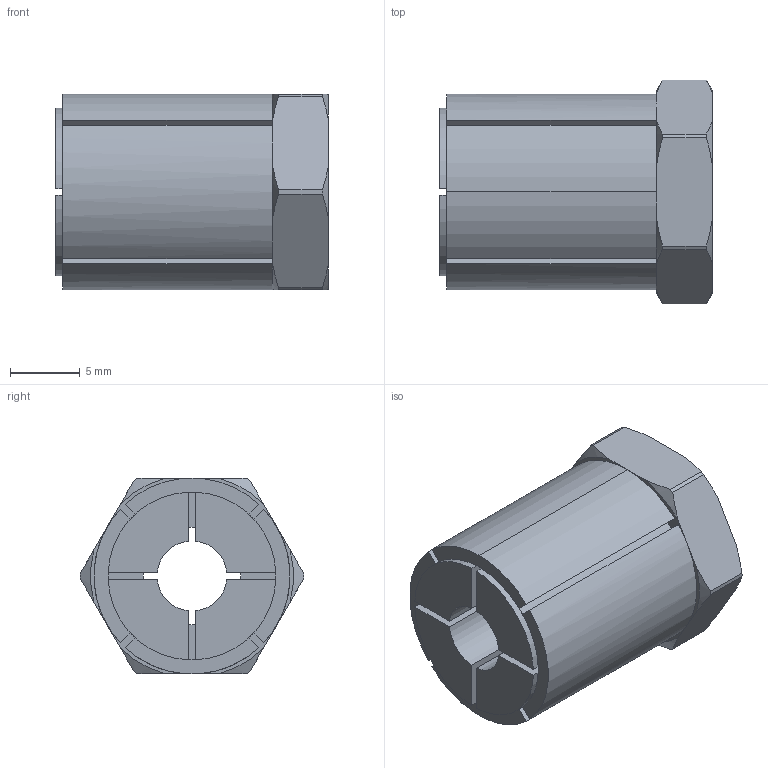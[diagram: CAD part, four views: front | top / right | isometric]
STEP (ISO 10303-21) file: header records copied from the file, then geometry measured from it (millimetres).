
FILE_DESCRIPTION (( 'STEP AP203' ), '1' );
FILE_NAME ('KBS 58 - 5 x 14.STEP', '2015-07-05T20:01:35', ( '' ), ( '' ), 'SwSTEP 2.0', 'SolidWorks 2010', '' );
FILE_SCHEMA (( 'CONFIG_CONTROL_DESIGN' ));
Length unit declared in the file: millimetre
Products named in the file (1): KBS 58 - 5 x 14
Bounding box: 19.5 x 16 x 14 mm (x, y, z)
Volume: 2486.2 mm3; surface area: 2120.7 mm2
Topology: 1 solids, 1 shells, 84 faces, 231 edges, 149 vertices
Faces by surface type: plane 42, cylinder 26, cone 16
Entity records: 2833 total; most frequent: CARTESIAN_POINT 601, ORIENTED_EDGE 462, DIRECTION 454, EDGE_CURVE 231, AXIS2_PLACEMENT_3D 170, VERTEX_POINT 149, LINE 114, VECTOR 114
